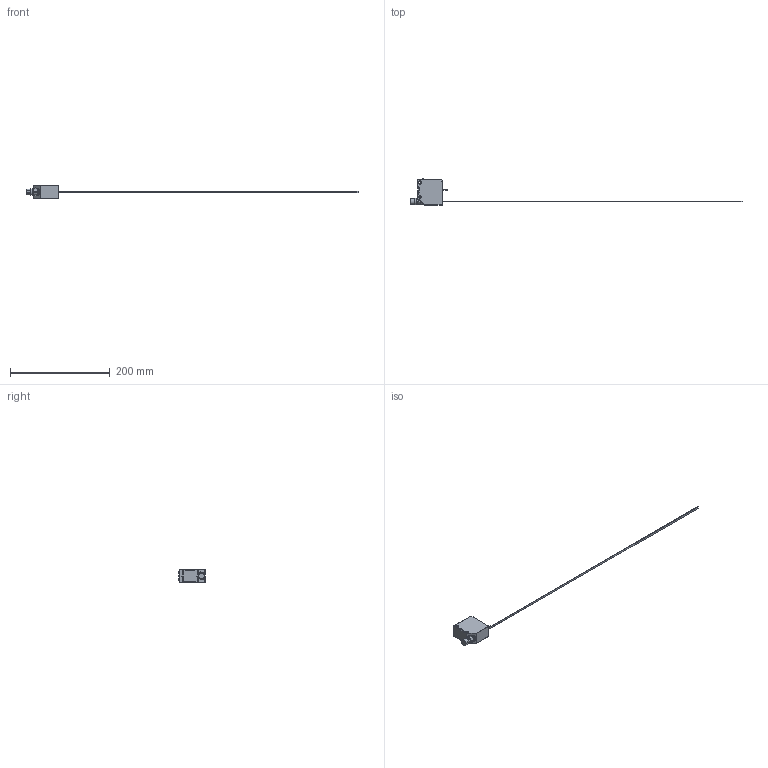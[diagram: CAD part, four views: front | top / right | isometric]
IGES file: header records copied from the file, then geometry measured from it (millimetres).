
Global section: file name: 624-41008_FT 55-RL2AM-480-PNSUIDL-L5M; native system: Autodesk Inventor 2023; preprocessor: unknown; author: Sandra.Stahl; date: 20231005.131502; units: millimetre
Bounding box: 664.52 x 52.11 x 25 mm (x, y, z)
Volume: 63960.1 mm3; surface area: 17965 mm2
Topology: 4 solids, 4 shells, 252 faces, 632 edges, 403 vertices
Faces by surface type: bspline 252
